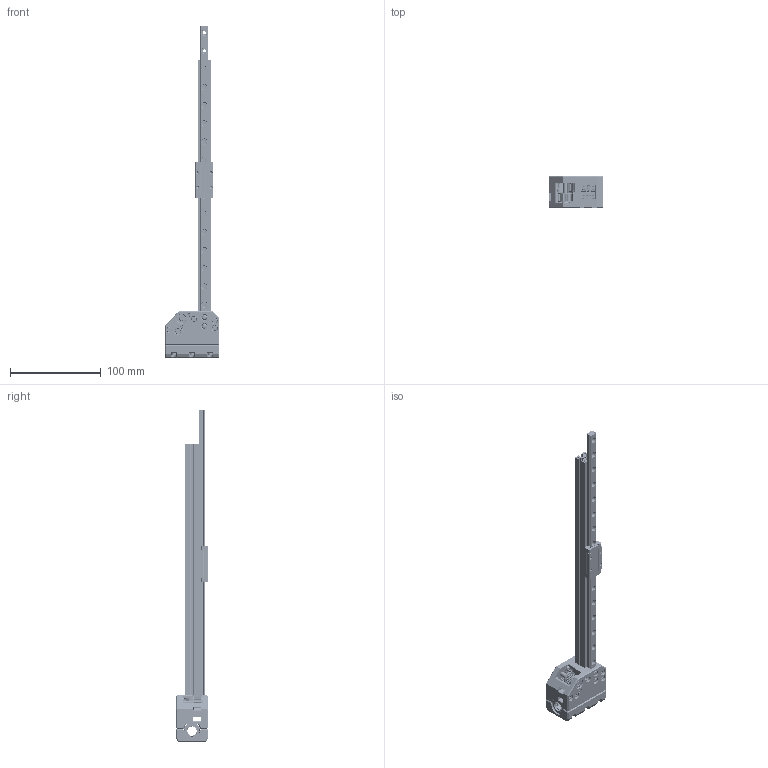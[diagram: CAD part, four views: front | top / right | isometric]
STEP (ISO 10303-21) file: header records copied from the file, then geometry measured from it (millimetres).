
FILE_DESCRIPTION(/* description */ ('FreeCAD Model'),/* implementation_level */ '2;1');
FILE_NAME(/* name */ 'Proosa MGN9 Y-carriers - LM10.step',/* time_stamp */ '2026-07-08T19:47:29+02:00',/* author */ (''),/* organization */ (''),/* preprocessor_version */ 'ST-DEVELOPER v20.1',/* originating_system */ 'Autodesk Translation Framework v15.8.0.0',/* authorisation */ '');
FILE_SCHEMA (('AUTOMOTIVE_DESIGN { 1 0 10303 214 3 1 1 }'));
Products named in the file (39): y-carrier-common; y-carrier-cap002; 1515 with MGN9H; HIWIN MGN09H1R315Z0HM; MGNR09R315HM; MGN09HZ0HM; 103172; Hardware; Screws; socket head cap screw_am_B18.3.1M - 3 x 0.5 x 30 Hex SHCS -- 18NHX; M3x14-Screw089; VITE_TESTA_BOMBATA_ESAGONO_INCASSATO; VITE_TESTA_BOMBATA_ESAGONO_INCASSATO_1; M3x8-Screw082; Heat inserts; Knurled Insert M3xH4; Componente4; Washer; 0.5mm_shim^drive_core_sherpa_mini_a3_r9c; flat washer narrow_am_B18.22M - Plain washer, 3 mm, narrow; Dowel pins; M3x16 dowel pin; M5x30 dowel pin; Nuts; M3-Nut078; Bearings; F623RS bearing stack; flat washer narrow_am_B18.22M - Plain washer, 3 mm, narrow_1; F623ZZ Flange Bearing; F695 Bearing; Pulleys; GT2 20T5B_dz2020; 2_Linearlager; 2_Linearlager_1; Deckkappe; Innenlager; dummy_Aussenlager; Linear_Lager; Kugel
Assembly tree (83 placements, depth 4):
  y-carrier-common
    y-carrier-cap002
    1515 with MGN9H
      HIWIN MGN09H1R315Z0HM
        MGNR09R315HM
        MGN09HZ0HM
      103172
    Hardware
      Screws
        socket head cap screw_am_B18.3.1M - 3 x 0.5 x 30 Hex SHCS -- 18NHX  x5
        M3x14-Screw089  x6
        VITE_TESTA_BOMBATA_ESAGONO_INCASSATO  x4
        VITE_TESTA_BOMBATA_ESAGONO_INCASSATO_1  x2
        M3x8-Screw082  x2
      Heat inserts
        Knurled Insert M3xH4  x15
      Componente4
      Washer
        0.5mm_shim^drive_core_sherpa_mini_a3_r9c
        flat washer narrow_am_B18.22M - Plain washer, 3 mm, narrow  x2
      Dowel pins
        M3x16 dowel pin
        M5x30 dowel pin
      Nuts
        M3-Nut078  x4
    Bearings
      F623RS bearing stack
        flat washer narrow_am_B18.22M - Plain washer, 3 mm, narrow_1
        F623ZZ Flange Bearing  x2
      F695 Bearing  x2
    Pulleys
      GT2 20T5B_dz2020
    2_Linearlager
      Deckkappe
      Innenlager
      dummy_Aussenlager
      Linear_Lager
      Kugel  x4
    2_Linearlager_1
      Deckkappe
      Innenlager
      dummy_Aussenlager
      Linear_Lager
      Kugel  x4
Bounding box: 60 x 35 x 366.45 mm (x, y, z)
Volume: 149549.8 mm3; surface area: 126553.1 mm2
Topology: 220 solids, 220 shells, 4699 faces, 12038 edges, 7584 vertices
Faces by surface type: plane 1942, cylinder 1357, bspline 958, cone 233, sphere 152, torus 57
Full cylindrical faces by diameter (mm): 1.4 x8, 1.471 x52, 1.868 x56, 2 x1, 2.459 x19, 2.529 x20, 3 x22, 3.086 x16, 3.15 x2, 3.2 x18, 3.3 x18, 3.5 x16, 3.68 x3, 3.734 x30, 4 x15, 4.95 x1, 5 x5, 5.4 x4, 5.5 x11, 6 x29, 6.25 x2, 7 x3, 7.5 x1, 7.9 x4, 10 x3, 10.35 x2, 10.5 x4, 11.5 x4, 11.75 x2, 12 x8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
Entity records: 135308 total; most frequent: CARTESIAN_POINT 74123, ORIENTED_EDGE 13062, DIRECTION 11916, EDGE_CURVE 6531, VERTEX_POINT 4319, AXIS2_PLACEMENT_3D 4222, LINE 3472, VECTOR 3472
